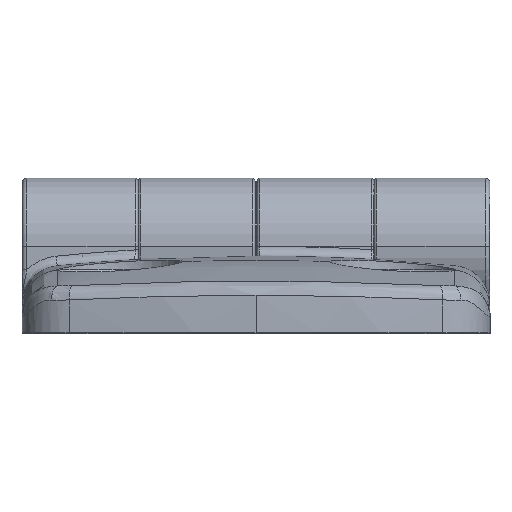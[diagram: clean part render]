
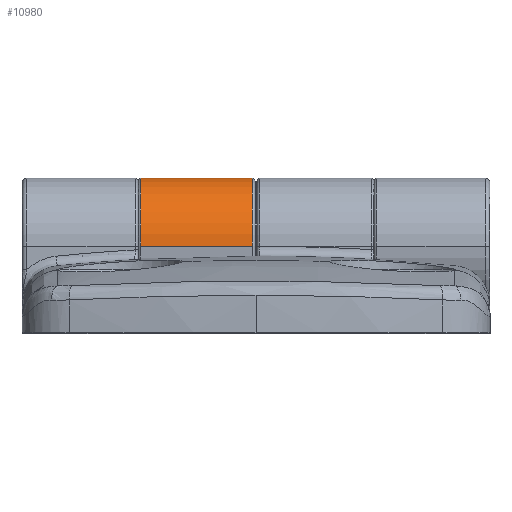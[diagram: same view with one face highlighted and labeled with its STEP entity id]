
A CAD part, top view. The second image highlights one B-rep face of the part: STEP entity #10980.
In plain terms, the highlighted cylindrical face has radius 7 mm (diameter 14 mm), a partial arc.
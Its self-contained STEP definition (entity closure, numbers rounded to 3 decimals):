
#99 = ORIENTED_EDGE ( 'NONE', *, *, #7467, .F. ) ;
#703 = EDGE_LOOP ( 'NONE', ( #99, #10686, #1889, #10672 ) ) ;
#720 = DIRECTION ( 'NONE',  ( 0., 0., -1. ) ) ;
#722 = DIRECTION ( 'NONE',  ( 1., 0., 0. ) ) ;
#724 = CARTESIAN_POINT ( 'NONE',  ( -11.8, 8.9, 0. ) ) ;
#727 = DIRECTION ( 'NONE',  ( 0., 0., -1. ) ) ;
#729 = DIRECTION ( 'NONE',  ( -1., 0., 0. ) ) ;
#732 = CARTESIAN_POINT ( 'NONE',  ( -0.4, 8.9, 0. ) ) ;
#740 = DIRECTION ( 'NONE',  ( -1., 0., 0. ) ) ;
#741 = CARTESIAN_POINT ( 'NONE',  ( 24., 8.9, -7. ) ) ;
#1166 = VERTEX_POINT ( 'NONE', #4480 ) ;
#1889 = ORIENTED_EDGE ( 'NONE', *, *, #2214, .T. ) ;
#2214 = EDGE_CURVE ( 'NONE', #1166, #9595, #6025, .T. ) ;
#2218 = EDGE_CURVE ( 'NONE', #9333, #1166, #6033, .T. ) ;
#2219 = EDGE_CURVE ( 'NONE', #9595, #9517, #6035, .T. ) ;
#3733 = AXIS2_PLACEMENT_3D ( 'NONE', #732, #729, #727 ) ;
#3734 = AXIS2_PLACEMENT_3D ( 'NONE', #724, #722, #720 ) ;
#4480 = CARTESIAN_POINT ( 'NONE',  ( -0.4, 8.9, -7. ) ) ;
#4790 = AXIS2_PLACEMENT_3D ( 'NONE', #9812, #9813, #9680 ) ;
#5002 = CARTESIAN_POINT ( 'NONE',  ( -11.8, 8.9, 7. ) ) ;
#5447 = CARTESIAN_POINT ( 'NONE',  ( -0.4, 8.9, 7. ) ) ;
#5499 = CARTESIAN_POINT ( 'NONE',  ( -11.8, 8.9, -7. ) ) ;
#6025 = LINE ( 'NONE', #741, #6028 ) ;
#6028 = VECTOR ( 'NONE', #740, 1000. ) ;
#6033 = CIRCLE ( 'NONE', #3733, 7. ) ;
#6035 = CIRCLE ( 'NONE', #3734, 7. ) ;
#6283 = LINE ( 'NONE', #7103, #6290 ) ;
#6290 = VECTOR ( 'NONE', #7111, 1000. ) ;
#7103 = CARTESIAN_POINT ( 'NONE',  ( 24., 8.9, 7. ) ) ;
#7111 = DIRECTION ( 'NONE',  ( -1., 0., 0. ) ) ;
#7467 = EDGE_CURVE ( 'NONE', #9333, #9517, #6283, .T. ) ;
#8186 = FACE_OUTER_BOUND ( 'NONE', #703, .T. ) ;
#8191 = CYLINDRICAL_SURFACE ( 'NONE', #4790, 7. ) ;
#9333 = VERTEX_POINT ( 'NONE', #5447 ) ;
#9517 = VERTEX_POINT ( 'NONE', #5002 ) ;
#9595 = VERTEX_POINT ( 'NONE', #5499 ) ;
#9680 = DIRECTION ( 'NONE',  ( 0., 0., 1. ) ) ;
#9812 = CARTESIAN_POINT ( 'NONE',  ( 24., 8.9, 0. ) ) ;
#9813 = DIRECTION ( 'NONE',  ( -1., 0., 0. ) ) ;
#10672 = ORIENTED_EDGE ( 'NONE', *, *, #2219, .T. ) ;
#10686 = ORIENTED_EDGE ( 'NONE', *, *, #2218, .T. ) ;
#10980 = ADVANCED_FACE ( 'NONE', ( #8186 ), #8191, .T. ) ;
